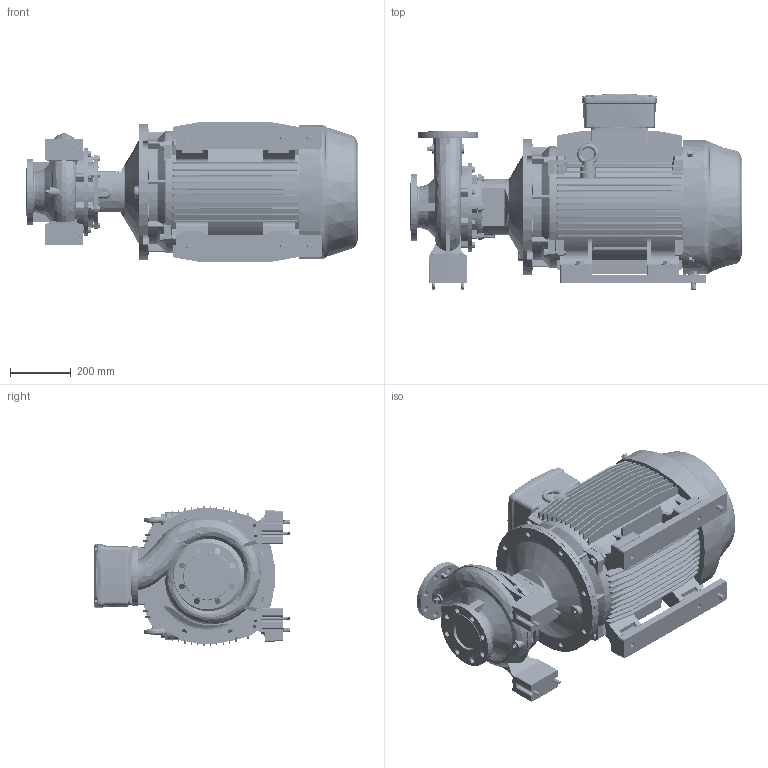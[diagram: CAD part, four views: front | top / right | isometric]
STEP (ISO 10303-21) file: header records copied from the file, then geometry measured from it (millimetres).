
FILE_DESCRIPTION (( 'STEP AP214' ), '1' );
FILE_NAME ('GSD2 80-200_45_(225SM)_W21.STEP', '2026-07-08T03:05:35', ( '' ), ( '' ), 'SwSTEP 2.0', 'SolidWorks 2024', '' );
FILE_SCHEMA (( 'AUTOMOTIVE_DESIGN' ));
Length unit declared in the file: millimetre
Products named in the file (11): Parametric bolt_SFT-A359B; 80x25 -CGSDA-5281 (225); 80-200-225S_M_ﾃﾞﾌｫﾙﾄ; Parametric bolt_SFT-A325B; Parametric Flat Washer_M12; CGS11-5311_2_3_4_5_CGS11-5315; 225S_M2P IE3_W21T_B35; Parametric Flat Washer_M16; Parametric bolt and washer_SFT-A325B; Parametric bolt and washer_SFT-A359B; GSD2  80-200_45_(225SM)_W21
Assembly tree (22 placements, depth 3):
  GSD2  80-200_45_(225SM)_W21
    80-200-225S_M_ﾃﾞﾌｫﾙﾄ
    225S_M2P IE3_W21T_B35
    CGS11-5311_2_3_4_5_CGS11-5315  x4
    80x25 -CGSDA-5281 (225)  x2
    Parametric bolt and washer_SFT-A325B  x4
      Parametric bolt_SFT-A325B
      Parametric Flat Washer_M12
    Parametric bolt and washer_SFT-A359B  x6
      Parametric bolt_SFT-A359B
      Parametric Flat Washer_M16
Bounding box: 1094.5 x 645.5 x 459.72 mm (x, y, z)
Volume: 123280613.1 mm3; surface area: 4425882.1 mm2
Topology: 30 solids, 35 shells, 4157 faces, 11019 edges, 7056 vertices
Faces by surface type: plane 1710, cylinder 1443, cone 470, torus 293, bspline 226, sphere 15
Entity records: 150386 total; most frequent: CARTESIAN_POINT 65044, ORIENTED_EDGE 18622, DIRECTION 17105, EDGE_CURVE 9311, AXIS2_PLACEMENT_3D 6274, VERTEX_POINT 5944, LINE 4557, VECTOR 4557
